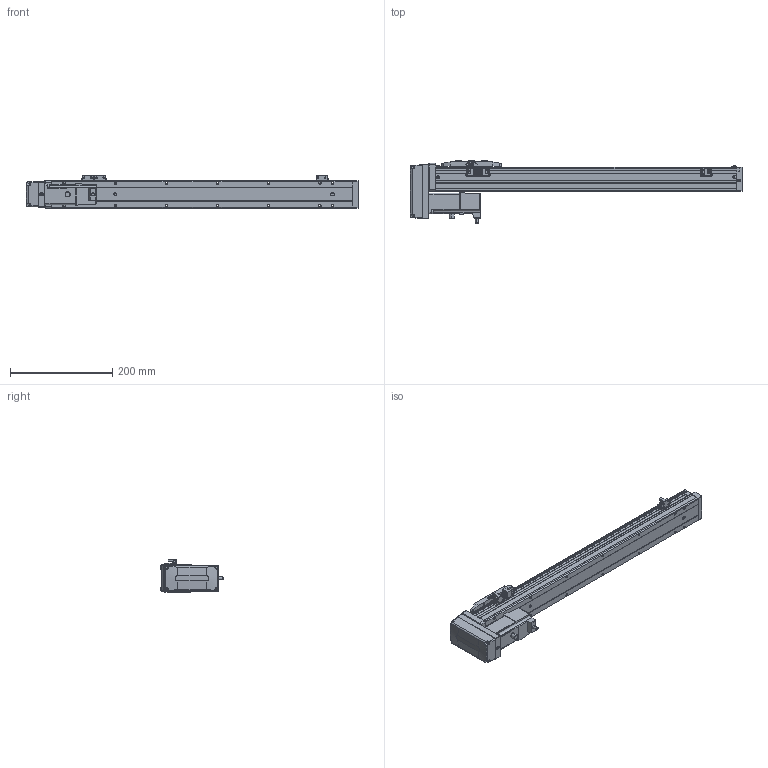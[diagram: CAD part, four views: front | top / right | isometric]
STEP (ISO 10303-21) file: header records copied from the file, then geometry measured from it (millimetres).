
FILE_DESCRIPTION (( 'STEP AP203' ), '1' );
FILE_NAME ('CTH5-L10-S450-BM-C10(¼ò).STEP', '2023-02-04T02:21:51', ( '' ), ( '' ), 'SwSTEP 2.0', 'SolidWorks 2018', '' );
FILE_SCHEMA (( 'CONFIG_CONTROL_DESIGN' ));
Length unit declared in the file: millimetre
Products named in the file (22): CTH5-BL-T10_body5; 嫖萇羲壽郪磁1; CTH5耜蚾蟀諉啣(潠); T10-p1; M3｡｣; CTH5耜蚾欶; CTH5ヶ耜啣(潠); 100W萇儂; CTH5-L10-S450-BM-C10(潠); PM-Y45; 葩璃 蚾饜极16^CTH5-L10-S450-BM-C10(潠); 葩璃 蚾饜极13^CTH8-L10-S50-BM-C40(潠)1; CTH5耜晚蹟隊-1; CTH嫖萇羲壽假蚾啣; CTH5賑怢; CTH100W假蚾啣; CTH5覜茼え; hex nuts, style 1-grades ab gb_GB_FASTENER_NUT_SNAB1 M3-N; CTH5耜晚蹟隊; 内六角圆柱头螺钉M3-2; CTH5菁釱-L590; CTH5綴耜啣
Assembly tree (37 placements, depth 4):
  CTH5-L10-S450-BM-C10(潠)
    CTH5綴耜啣
    CTH5賑怢
    CTH5ヶ耜啣(潠)
    CTH5菁釱-L590
    CTH5耜晚蹟隊  x2
    嫖萇羲壽郪磁1  x2
      CTH嫖萇羲壽假蚾啣
      PM-Y45
      M3｡｣
      内六角圆柱头螺钉M3-2
      hex nuts, style 1-grades ab gb_GB_FASTENER_NUT_SNAB1 M3-N
    CTH5覜茼え
    葩璃 蚾饜极13^CTH8-L10-S50-BM-C40(潠)1
      CTH嫖萇羲壽假蚾啣
      PM-Y45
      内六角圆柱头螺钉M3-2  x2
      M3｡｣  x2
      hex nuts, style 1-grades ab gb_GB_FASTENER_NUT_SNAB1 M3-N  x2
    CTH5耜晚蹟隊-1  x4
    葩璃 蚾饜极16^CTH5-L10-S450-BM-C10(潠)
      CTH5耜蚾蟀諉啣(潠)
      CTH5耜蚾欶
        CTH5-BL-T10_body5
      100W萇儂
        T10-p1
      CTH100W假蚾啣
Bounding box: 650 x 122.21 x 63.3 mm (x, y, z)
Volume: 1661612.9 mm3; surface area: 245033.6 mm2
Topology: 39 solids, 39 shells, 1607 faces, 4033 edges, 2604 vertices
Faces by surface type: plane 890, cylinder 468, cone 191, torus 40, bspline 18
Entity records: 37471 total; most frequent: CARTESIAN_POINT 6940, DIRECTION 5917, ORIENTED_EDGE 5690, EDGE_CURVE 2845, AXIS2_PLACEMENT_3D 2036, LINE 1845, VECTOR 1845, VERTEX_POINT 1832
